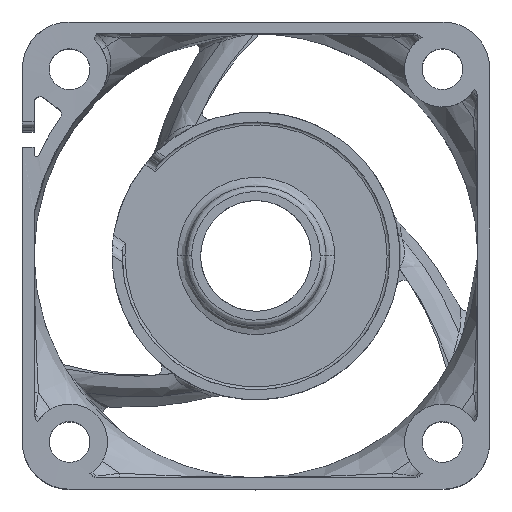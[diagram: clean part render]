
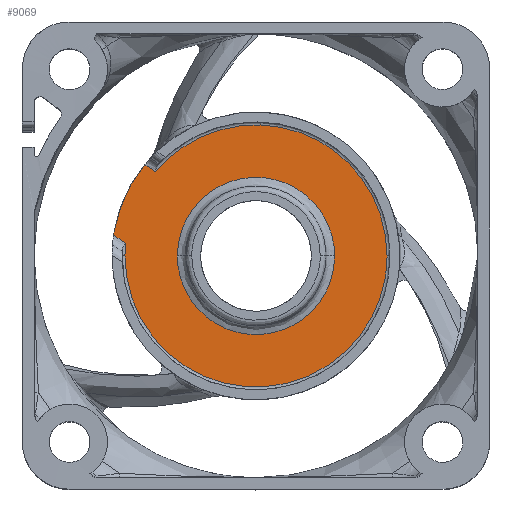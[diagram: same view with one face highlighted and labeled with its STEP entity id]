
A CAD part, top view. The second image highlights one B-rep face of the part: STEP entity #9069.
In plain terms, the highlighted free-form (B-spline) face has degree [1, 1] with [2, 2] control points.
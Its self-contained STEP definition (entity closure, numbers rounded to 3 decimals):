
#4 = CARTESIAN_POINT ( 'NONE',  ( 37.78, -98.211, 1.55 ) ) ;
#1138 = CARTESIAN_POINT ( 'NONE',  ( 38.401, -94.66, 1.55 ) ) ;
#1246 = ORIENTED_EDGE ( 'NONE', *, *, #10548, .T. ) ;
#1405 = ORIENTED_EDGE ( 'NONE', *, *, #18316, .T. ) ;
#1628 = CARTESIAN_POINT ( 'NONE',  ( 38.75, -100., 1.55 ) ) ;
#1719 = CARTESIAN_POINT ( 'NONE',  ( 37.838, -97.855, 1.55 ) ) ;
#1841 = ORIENTED_EDGE ( 'NONE', *, *, #9062, .T. ) ;
#2561 = ORIENTED_EDGE ( 'NONE', *, *, #17314, .T. ) ;
#2585 = EDGE_CURVE ( 'NONE', #19857, #9970, #15578, .T. ) ;
#2594 = EDGE_CURVE ( 'NONE', #10218, #6671, #22472, .T. ) ;
#2687 = CARTESIAN_POINT ( 'NONE',  ( 40.463, -92.154, 1.55 ) ) ;
#3041 = CARTESIAN_POINT ( 'NONE',  ( 56.75, -100., 1.55 ) ) ;
#3088 = CARTESIAN_POINT ( 'NONE',  ( 38.75, -100., 1.55 ) ) ;
#3408 = ORIENTED_EDGE ( 'NONE', *, *, #22144, .T. ) ;
#3615 = CARTESIAN_POINT ( 'NONE',  ( 47.571, -85.361, 1.55 ) ) ;
#3901 = CARTESIAN_POINT ( 'NONE',  ( 38.75, -100., 1.55 ) ) ;
#4029 = FACE_OUTER_BOUND ( 'NONE', #7614, .T. ) ;
#4172 = VERTEX_POINT ( 'NONE', #20951 ) ;
#4242 = CARTESIAN_POINT ( 'NONE',  ( 50., -106.75, 1.55 ) ) ;
#4341 = EDGE_LOOP ( 'NONE', ( #19753, #1246 ) ) ;
#4939 = CARTESIAN_POINT ( 'NONE',  ( 61.25, -100., 1.55 ) ) ;
#6088 =( BOUNDED_CURVE ( )  B_SPLINE_CURVE ( 2, ( #19368, #19264, #16151, #3615, #9024 ),
 .UNSPECIFIED., .F., .F. ) 
 B_SPLINE_CURVE_WITH_KNOTS ( ( 3, 2, 3 ),
 ( 0.572, 0.75, 1. ),
 .UNSPECIFIED. ) 
 CURVE ( )  GEOMETRIC_REPRESENTATION_ITEM ( )  RATIONAL_B_SPLINE_CURVE ( ( 0.901, 0.827, 1., 0.758, 1. ) ) 
 REPRESENTATION_ITEM ( '' )  );
#6446 = CARTESIAN_POINT ( 'NONE',  ( 61.25, -100., 1.55 ) ) ;
#6671 = VERTEX_POINT ( 'NONE', #1628 ) ;
#6917 = CARTESIAN_POINT ( 'NONE',  ( 38.801, -98.926, 1.55 ) ) ;
#7093 = VERTEX_POINT ( 'NONE', #2687 ) ;
#7362 = CARTESIAN_POINT ( 'NONE',  ( 38.75, -99.462, 1.55 ) ) ;
#7475 = CARTESIAN_POINT ( 'NONE',  ( 56.75, -100., 1.55 ) ) ;
#7565 = B_SPLINE_CURVE_WITH_KNOTS ( 'NONE', 1,
 ( #22566, #10399 ),
 .UNSPECIFIED., .F., .F.,
 ( 2, 2 ),
 ( 0., 1. ),
 .UNSPECIFIED. ) ;
#7597 = CARTESIAN_POINT ( 'NONE',  ( 4.2, -132.069, 1.55 ) ) ;
#7614 = EDGE_LOOP ( 'NONE', ( #2561, #11757, #3408, #19964, #1405, #9195, #1841 ) ) ;
#8062 = CARTESIAN_POINT ( 'NONE',  ( 37.78, -98.211, 1.55 ) ) ;
#8329 = CARTESIAN_POINT ( 'NONE',  ( 43.25, -100., 1.55 ) ) ;
#8656 = EDGE_CURVE ( 'NONE', #13592, #4172, #6088, .T. ) ;
#9024 = CARTESIAN_POINT ( 'NONE',  ( 41.367, -92.787, 1.55 ) ) ;
#9062 = EDGE_CURVE ( 'NONE', #4172, #7093, #7565, .T. ) ;
#9069 = ADVANCED_FACE ( 'NONE', ( #16337, #4029 ), #11688, .T. ) ;
#9195 = ORIENTED_EDGE ( 'NONE', *, *, #8656, .T. ) ;
#9909 = CARTESIAN_POINT ( 'NONE',  ( 37.78, -98.211, 1.55 ) ) ;
#9970 = VERTEX_POINT ( 'NONE', #18646 ) ;
#10218 = VERTEX_POINT ( 'NONE', #18154 ) ;
#10354 = CARTESIAN_POINT ( 'NONE',  ( 61.25, -102.256, 1.55 ) ) ;
#10399 = CARTESIAN_POINT ( 'NONE',  ( 40.463, -92.154, 1.55 ) ) ;
#10467 = CARTESIAN_POINT ( 'NONE',  ( 60.38, -104.338, 1.55 ) ) ;
#10548 = EDGE_CURVE ( 'NONE', #9970, #19857, #12733, .T. ) ;
#11557 = CARTESIAN_POINT ( 'NONE',  ( 43.25, -93.25, 1.55 ) ) ;
#11564 =( BOUNDED_CURVE ( )  B_SPLINE_CURVE ( 2, ( #16767, #1138, #19870 ),
 .UNSPECIFIED., .F., .F. ) 
 B_SPLINE_CURVE_WITH_KNOTS ( ( 3, 3 ),
 ( 0., 0.946 ),
 .UNSPECIFIED. ) 
 CURVE ( )  GEOMETRIC_REPRESENTATION_ITEM ( )  RATIONAL_B_SPLINE_CURVE ( ( 1., 0.965, 0.996 ) ) 
 REPRESENTATION_ITEM ( '' )  );
#11688 = B_SPLINE_SURFACE_WITH_KNOTS ( 'NONE', 1, 1, ( 
 ( #7597, #18172 ),
 ( #19669, #12664 ) ),
 .UNSPECIFIED., .F., .F., .F.,
 ( 2, 2 ),
 ( 2, 2 ),
 ( 0., 1. ),
 ( 0., 1. ),
 .UNSPECIFIED. ) ;
#11757 = ORIENTED_EDGE ( 'NONE', *, *, #13706, .T. ) ;
#12540 = CARTESIAN_POINT ( 'NONE',  ( 43.25, -106.75, 1.55 ) ) ;
#12664 = CARTESIAN_POINT ( 'NONE',  ( 95.8, -67.931, 1.55 ) ) ;
#12733 =( BOUNDED_CURVE ( )  B_SPLINE_CURVE ( 2, ( #8329, #11557, #22357, #15237, #3041 ),
 .UNSPECIFIED., .F., .T. ) 
 B_SPLINE_CURVE_WITH_KNOTS ( ( 3, 2, 3 ),
 ( 0.5, 0.75, 1. ),
 .UNSPECIFIED. ) 
 CURVE ( )  GEOMETRIC_REPRESENTATION_ITEM ( )  RATIONAL_B_SPLINE_CURVE ( ( 1., 0.707, 1., 0.707, 1. ) ) 
 REPRESENTATION_ITEM ( '' )  );
#13554 = CARTESIAN_POINT ( 'NONE',  ( 38.75, -108.777, 1.55 ) ) ;
#13592 = VERTEX_POINT ( 'NONE', #6446 ) ;
#13706 = EDGE_CURVE ( 'NONE', #15837, #22063, #20389, .T. ) ;
#13876 = CARTESIAN_POINT ( 'NONE',  ( 56.75, -100., 1.55 ) ) ;
#15237 = CARTESIAN_POINT ( 'NONE',  ( 56.75, -93.25, 1.55 ) ) ;
#15578 =( BOUNDED_CURVE ( )  B_SPLINE_CURVE ( 2, ( #7475, #19879, #4242, #12540, #16215 ),
 .UNSPECIFIED., .F., .F. ) 
 B_SPLINE_CURVE_WITH_KNOTS ( ( 3, 2, 3 ),
 ( 0., 0.25, 0.5 ),
 .UNSPECIFIED. ) 
 CURVE ( )  GEOMETRIC_REPRESENTATION_ITEM ( )  RATIONAL_B_SPLINE_CURVE ( ( 1., 0.707, 1., 0.707, 1. ) ) 
 REPRESENTATION_ITEM ( '' )  );
#15837 = VERTEX_POINT ( 'NONE', #1719 ) ;
#16151 = CARTESIAN_POINT ( 'NONE',  ( 55.841, -90.385, 1.55 ) ) ;
#16215 = CARTESIAN_POINT ( 'NONE',  ( 43.25, -100., 1.55 ) ) ;
#16337 = FACE_BOUND ( 'NONE', #4341, .T. ) ;
#16767 = CARTESIAN_POINT ( 'NONE',  ( 40.463, -92.154, 1.55 ) ) ;
#17314 = EDGE_CURVE ( 'NONE', #7093, #15837, #11564, .T. ) ;
#18154 = CARTESIAN_POINT ( 'NONE',  ( 38.801, -98.926, 1.55 ) ) ;
#18172 = CARTESIAN_POINT ( 'NONE',  ( 17.931, -54.2, 1.55 ) ) ;
#18316 = EDGE_CURVE ( 'NONE', #6671, #13592, #20697, .T. ) ;
#18646 = CARTESIAN_POINT ( 'NONE',  ( 43.25, -100., 1.55 ) ) ;
#19264 = CARTESIAN_POINT ( 'NONE',  ( 61.25, -93.671, 1.55 ) ) ;
#19368 = CARTESIAN_POINT ( 'NONE',  ( 61.25, -100., 1.55 ) ) ;
#19509 = B_SPLINE_CURVE_WITH_KNOTS ( 'NONE', 1,
 ( #4, #6917 ),
 .UNSPECIFIED., .F., .F.,
 ( 2, 2 ),
 ( 0., 1. ),
 .UNSPECIFIED. ) ;
#19655 = CARTESIAN_POINT ( 'NONE',  ( 38.801, -98.926, 1.55 ) ) ;
#19669 = CARTESIAN_POINT ( 'NONE',  ( 82.069, -145.8, 1.55 ) ) ;
#19753 = ORIENTED_EDGE ( 'NONE', *, *, #2585, .T. ) ;
#19857 = VERTEX_POINT ( 'NONE', #13876 ) ;
#19870 = CARTESIAN_POINT ( 'NONE',  ( 37.838, -97.855, 1.55 ) ) ;
#19879 = CARTESIAN_POINT ( 'NONE',  ( 56.75, -106.75, 1.55 ) ) ;
#19964 = ORIENTED_EDGE ( 'NONE', *, *, #2594, .T. ) ;
#20356 = CARTESIAN_POINT ( 'NONE',  ( 37.838, -97.855, 1.55 ) ) ;
#20389 =( BOUNDED_CURVE ( )  B_SPLINE_CURVE ( 2, ( #20356, #20694, #9909 ),
 .UNSPECIFIED., .F., .F. ) 
 B_SPLINE_CURVE_WITH_KNOTS ( ( 3, 3 ),
 ( 0.946, 1. ),
 .UNSPECIFIED. ) 
 CURVE ( )  GEOMETRIC_REPRESENTATION_ITEM ( )  RATIONAL_B_SPLINE_CURVE ( ( 0.996, 0.998, 1. ) ) 
 REPRESENTATION_ITEM ( '' )  );
#20694 = CARTESIAN_POINT ( 'NONE',  ( 37.806, -98.033, 1.55 ) ) ;
#20697 =( BOUNDED_CURVE ( )  B_SPLINE_CURVE ( 2, ( #3088, #13554, #22519, #22635, #10467, #10354, #4939 ),
 .UNSPECIFIED., .F., .F. ) 
 B_SPLINE_CURVE_WITH_KNOTS ( ( 3, 2, 2, 3 ),
 ( 0.018, 0.25, 0.5, 0.572 ),
 .UNSPECIFIED. ) 
 CURVE ( )  GEOMETRIC_REPRESENTATION_ITEM ( )  RATIONAL_B_SPLINE_CURVE ( ( 0.968, 0.776, 1., 0.758, 1., 0.931, 0.901 ) ) 
 REPRESENTATION_ITEM ( '' )  );
#20951 = CARTESIAN_POINT ( 'NONE',  ( 41.367, -92.787, 1.55 ) ) ;
#22063 = VERTEX_POINT ( 'NONE', #8062 ) ;
#22144 = EDGE_CURVE ( 'NONE', #22063, #10218, #19509, .T. ) ;
#22357 = CARTESIAN_POINT ( 'NONE',  ( 50., -93.25, 1.55 ) ) ;
#22472 =( BOUNDED_CURVE ( )  B_SPLINE_CURVE ( 2, ( #19655, #7362, #3901 ),
 .UNSPECIFIED., .F., .F. ) 
 B_SPLINE_CURVE_WITH_KNOTS ( ( 3, 3 ),
 ( 0., 0.018 ),
 .UNSPECIFIED. ) 
 CURVE ( )  GEOMETRIC_REPRESENTATION_ITEM ( )  RATIONAL_B_SPLINE_CURVE ( ( 1., 0.983, 0.968 ) ) 
 REPRESENTATION_ITEM ( '' )  );
#22519 = CARTESIAN_POINT ( 'NONE',  ( 47.263, -110.912, 1.55 ) ) ;
#22566 = CARTESIAN_POINT ( 'NONE',  ( 41.367, -92.787, 1.55 ) ) ;
#22635 = CARTESIAN_POINT ( 'NONE',  ( 56.649, -113.266, 1.55 ) ) ;
